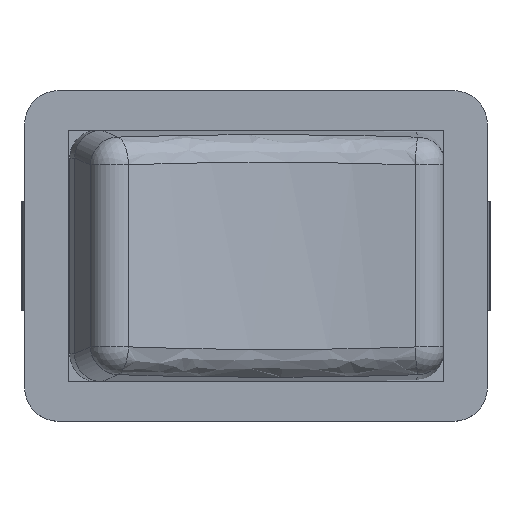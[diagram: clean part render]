
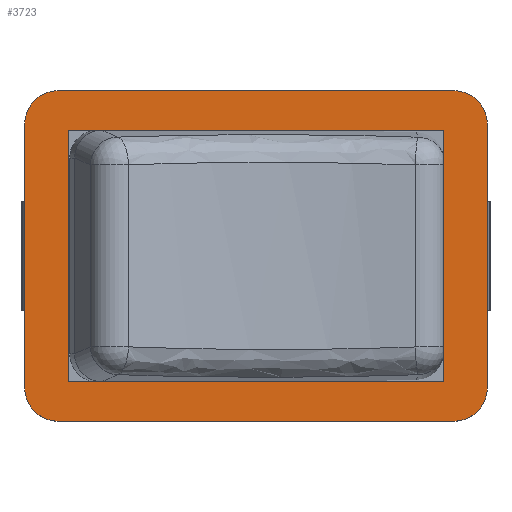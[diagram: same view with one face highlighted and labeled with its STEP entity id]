
A CAD part, top view. The second image highlights one B-rep face of the part: STEP entity #3723.
In plain terms, the highlighted planar face has unit normal (0, 0, 1).
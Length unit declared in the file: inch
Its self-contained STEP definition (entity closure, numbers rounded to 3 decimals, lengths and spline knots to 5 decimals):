
#82=FACE_BOUND('',#502,.T.);
#85=CIRCLE('',#3913,0.06);
#90=CIRCLE('',#3921,0.06);
#91=CIRCLE('',#3923,0.06);
#92=CIRCLE('',#3926,0.06);
#293=FACE_OUTER_BOUND('',#501,.T.);
#501=EDGE_LOOP('',(#3140,#3141,#3142,#3143,#3144,#3145,#3146,#3147));
#502=EDGE_LOOP('',(#3148,#3149,#3150,#3151));
#659=LINE('',#5350,#1126);
#664=LINE('',#5364,#1131);
#924=LINE('',#5908,#1391);
#928=LINE('',#5916,#1395);
#931=LINE('',#5922,#1398);
#934=LINE('',#5927,#1401);
#936=LINE('',#5931,#1403);
#937=LINE('',#5933,#1404);
#1126=VECTOR('',#4320,0.3937);
#1131=VECTOR('',#4335,0.3937);
#1391=VECTOR('',#4817,0.3937);
#1395=VECTOR('',#4823,0.3937);
#1398=VECTOR('',#4828,0.3937);
#1401=VECTOR('',#4833,0.3937);
#1403=VECTOR('',#4839,0.3937);
#1404=VECTOR('',#4842,0.3937);
#1543=VERTEX_POINT('',#5286);
#1544=VERTEX_POINT('',#5287);
#1573=VERTEX_POINT('',#5349);
#1574=VERTEX_POINT('',#5353);
#1575=VERTEX_POINT('',#5357);
#1576=VERTEX_POINT('',#5358);
#1577=VERTEX_POINT('',#5363);
#1578=VERTEX_POINT('',#5367);
#1749=VERTEX_POINT('',#5906);
#1750=VERTEX_POINT('',#5907);
#1753=VERTEX_POINT('',#5915);
#1755=VERTEX_POINT('',#5921);
#1909=EDGE_CURVE('',#1543,#1544,#85,.T.);
#1940=EDGE_CURVE('',#1573,#1544,#659,.T.);
#1942=EDGE_CURVE('',#1573,#1574,#90,.T.);
#1944=EDGE_CURVE('',#1575,#1576,#91,.T.);
#1947=EDGE_CURVE('',#1577,#1576,#664,.T.);
#1949=EDGE_CURVE('',#1577,#1578,#92,.T.);
#2218=EDGE_CURVE('',#1749,#1750,#924,.T.);
#2222=EDGE_CURVE('',#1753,#1749,#928,.T.);
#2225=EDGE_CURVE('',#1755,#1753,#931,.T.);
#2228=EDGE_CURVE('',#1750,#1755,#934,.T.);
#2230=EDGE_CURVE('',#1575,#1574,#936,.T.);
#2231=EDGE_CURVE('',#1543,#1578,#937,.T.);
#3140=ORIENTED_EDGE('',*,*,#1909,.F.);
#3141=ORIENTED_EDGE('',*,*,#2231,.T.);
#3142=ORIENTED_EDGE('',*,*,#1949,.F.);
#3143=ORIENTED_EDGE('',*,*,#1947,.T.);
#3144=ORIENTED_EDGE('',*,*,#1944,.F.);
#3145=ORIENTED_EDGE('',*,*,#2230,.T.);
#3146=ORIENTED_EDGE('',*,*,#1942,.F.);
#3147=ORIENTED_EDGE('',*,*,#1940,.T.);
#3148=ORIENTED_EDGE('',*,*,#2218,.T.);
#3149=ORIENTED_EDGE('',*,*,#2228,.T.);
#3150=ORIENTED_EDGE('',*,*,#2225,.T.);
#3151=ORIENTED_EDGE('',*,*,#2222,.T.);
#3545=PLANE('',#4042);
#3723=ADVANCED_FACE('',(#293,#82),#3545,.T.);
#3913=AXIS2_PLACEMENT_3D('',#5288,#4280,#4281);
#3921=AXIS2_PLACEMENT_3D('',#5354,#4324,#4325);
#3923=AXIS2_PLACEMENT_3D('',#5359,#4329,#4330);
#3926=AXIS2_PLACEMENT_3D('',#5368,#4339,#4340);
#4042=AXIS2_PLACEMENT_3D('',#5934,#4843,#4844);
#4280=DIRECTION('center_axis',(0.,0.,-1.));
#4281=DIRECTION('ref_axis',(0.707,-0.707,0.));
#4320=DIRECTION('',(1.,0.,0.));
#4324=DIRECTION('center_axis',(0.,0.,-1.));
#4325=DIRECTION('ref_axis',(-0.707,-0.707,0.));
#4329=DIRECTION('center_axis',(0.,0.,-1.));
#4330=DIRECTION('ref_axis',(-0.707,0.707,0.));
#4335=DIRECTION('',(-1.,0.,0.));
#4339=DIRECTION('center_axis',(0.,0.,-1.));
#4340=DIRECTION('ref_axis',(0.707,0.707,0.));
#4817=DIRECTION('',(0.,1.,0.));
#4823=DIRECTION('',(-1.,0.,0.));
#4828=DIRECTION('',(0.,-1.,0.));
#4833=DIRECTION('',(1.,0.,0.));
#4839=DIRECTION('',(0.,-1.,0.));
#4842=DIRECTION('',(0.,1.,0.));
#4843=DIRECTION('center_axis',(0.,0.,1.));
#4844=DIRECTION('ref_axis',(1.,0.,0.));
#5286=CARTESIAN_POINT('',(0.827,0.06,0.1));
#5287=CARTESIAN_POINT('',(0.767,0.,0.1));
#5288=CARTESIAN_POINT('Origin',(0.767,0.06,0.1));
#5349=CARTESIAN_POINT('',(0.06,0.,0.1));
#5350=CARTESIAN_POINT('',(0.,0.,0.1));
#5353=CARTESIAN_POINT('',(0.,0.06,0.1));
#5354=CARTESIAN_POINT('Origin',(0.06,0.06,0.1));
#5357=CARTESIAN_POINT('',(0.,0.531,0.1));
#5358=CARTESIAN_POINT('',(0.06,0.591,0.1));
#5359=CARTESIAN_POINT('Origin',(0.06,0.531,0.1));
#5363=CARTESIAN_POINT('',(0.767,0.591,0.1));
#5364=CARTESIAN_POINT('',(0.827,0.591,0.1));
#5367=CARTESIAN_POINT('',(0.827,0.531,0.1));
#5368=CARTESIAN_POINT('Origin',(0.767,0.531,0.1));
#5906=CARTESIAN_POINT('',(0.079,0.071,0.1));
#5907=CARTESIAN_POINT('',(0.079,0.52,0.1));
#5908=CARTESIAN_POINT('',(0.079,0.18325,0.1));
#5915=CARTESIAN_POINT('',(0.748,0.071,0.1));
#5916=CARTESIAN_POINT('',(0.58075,0.071,0.1));
#5921=CARTESIAN_POINT('',(0.748,0.52,0.1));
#5922=CARTESIAN_POINT('',(0.748,0.40775,0.1));
#5927=CARTESIAN_POINT('',(0.24625,0.52,0.1));
#5931=CARTESIAN_POINT('',(0.,0.591,0.1));
#5933=CARTESIAN_POINT('',(0.827,0.,0.1));
#5934=CARTESIAN_POINT('Origin',(0.4135,0.2955,0.1));
